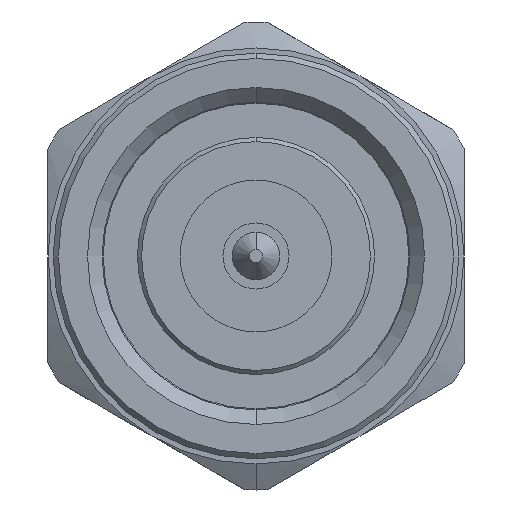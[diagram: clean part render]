
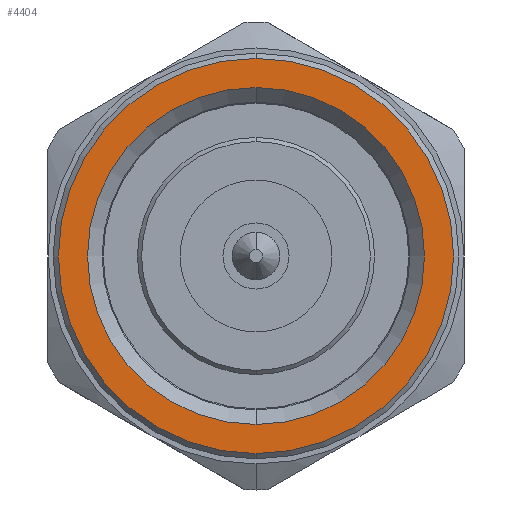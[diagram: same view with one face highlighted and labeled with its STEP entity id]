
A CAD part, left-side view. The second image highlights one B-rep face of the part: STEP entity #4404.
In plain terms, the highlighted planar face has unit normal (-1, 0, 0).
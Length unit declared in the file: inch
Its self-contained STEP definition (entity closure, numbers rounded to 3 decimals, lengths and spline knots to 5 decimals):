
#79 = FACE_OUTER_BOUND ( 'NONE', #3740, .T. ) ;
#540 = DIRECTION ( 'NONE',  ( 0., 0., 1. ) ) ;
#914 = CARTESIAN_POINT ( 'NONE',  ( -0.88071, 0., 0. ) ) ;
#1031 = AXIS2_PLACEMENT_3D ( 'NONE', #2202, #1856, #540 ) ;
#1083 = DIRECTION ( 'NONE',  ( 0., 0., -1. ) ) ;
#1311 = CIRCLE ( 'NONE', #3650, 0.12756 ) ;
#1390 = CARTESIAN_POINT ( 'NONE',  ( -0.88071, 0., -0.12756 ) ) ;
#1467 = DIRECTION ( 'NONE',  ( 0., 0., -1. ) ) ;
#1582 = CARTESIAN_POINT ( 'NONE',  ( -0.88071, 0., 0. ) ) ;
#1595 = EDGE_LOOP ( 'NONE', ( #2111, #5454 ) ) ;
#1816 = CARTESIAN_POINT ( 'NONE',  ( -0.88071, 0., 0.14961 ) ) ;
#1856 = DIRECTION ( 'NONE',  ( -1., 0., 0. ) ) ;
#1907 = EDGE_CURVE ( 'NONE', #2320, #5432, #2359, .T. ) ;
#2046 = DIRECTION ( 'NONE',  ( 1., 0., 0. ) ) ;
#2111 = ORIENTED_EDGE ( 'NONE', *, *, #3360, .T. ) ;
#2155 = ORIENTED_EDGE ( 'NONE', *, *, #4946, .F. ) ;
#2202 = CARTESIAN_POINT ( 'NONE',  ( -0.88071, -0.14961, 0. ) ) ;
#2205 = CIRCLE ( 'NONE', #5576, 0.12756 ) ;
#2280 = ORIENTED_EDGE ( 'NONE', *, *, #1907, .F. ) ;
#2320 = VERTEX_POINT ( 'NONE', #1816 ) ;
#2359 = CIRCLE ( 'NONE', #3665, 0.14961 ) ;
#2692 = DIRECTION ( 'NONE',  ( 1., 0., 0. ) ) ;
#2912 = EDGE_CURVE ( 'NONE', #3772, #5712, #2205, .T. ) ;
#3055 = CIRCLE ( 'NONE', #5125, 0.14961 ) ;
#3278 = CARTESIAN_POINT ( 'NONE',  ( -0.88071, 0., 0. ) ) ;
#3360 = EDGE_CURVE ( 'NONE', #5712, #3772, #1311, .T. ) ;
#3608 = FACE_BOUND ( 'NONE', #1595, .T. ) ;
#3650 = AXIS2_PLACEMENT_3D ( 'NONE', #3916, #2046, #4297 ) ;
#3665 = AXIS2_PLACEMENT_3D ( 'NONE', #914, #2692, #1467 ) ;
#3740 = EDGE_LOOP ( 'NONE', ( #2155, #2280 ) ) ;
#3772 = VERTEX_POINT ( 'NONE', #4793 ) ;
#3789 = CARTESIAN_POINT ( 'NONE',  ( -0.88071, 0., -0.14961 ) ) ;
#3916 = CARTESIAN_POINT ( 'NONE',  ( -0.88071, 0., 0. ) ) ;
#4297 = DIRECTION ( 'NONE',  ( 0., 0., -1. ) ) ;
#4404 = ADVANCED_FACE ( 'NONE', ( #3608, #79 ), #4898, .T. ) ;
#4793 = CARTESIAN_POINT ( 'NONE',  ( -0.88071, 0., 0.12756 ) ) ;
#4898 = PLANE ( 'NONE',  #1031 ) ;
#4946 = EDGE_CURVE ( 'NONE', #5432, #2320, #3055, .T. ) ;
#5051 = DIRECTION ( 'NONE',  ( 0., 0., -1. ) ) ;
#5080 = DIRECTION ( 'NONE',  ( 1., 0., 0. ) ) ;
#5093 = DIRECTION ( 'NONE',  ( 1., 0., 0. ) ) ;
#5125 = AXIS2_PLACEMENT_3D ( 'NONE', #3278, #5093, #1083 ) ;
#5432 = VERTEX_POINT ( 'NONE', #3789 ) ;
#5454 = ORIENTED_EDGE ( 'NONE', *, *, #2912, .T. ) ;
#5576 = AXIS2_PLACEMENT_3D ( 'NONE', #1582, #5080, #5051 ) ;
#5712 = VERTEX_POINT ( 'NONE', #1390 ) ;
